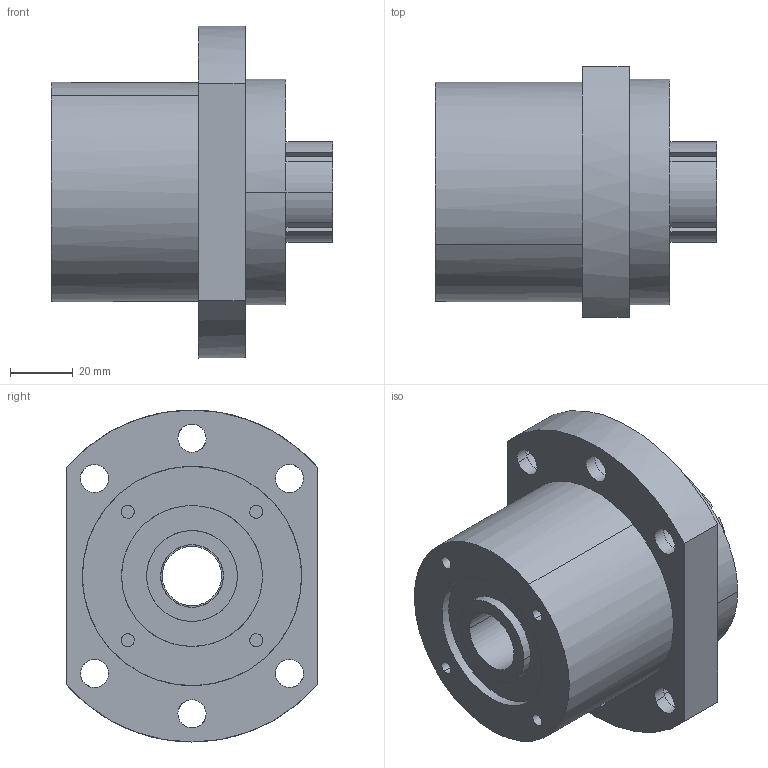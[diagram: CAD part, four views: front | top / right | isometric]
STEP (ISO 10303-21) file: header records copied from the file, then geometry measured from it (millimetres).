
FILE_DESCRIPTION(('CATIA V5 STEP Exchange'),'2;1');
FILE_NAME('D:\서포트 완성도면\WBK\WBK20DFD.stp','2014-03-26T10:24:34+00:00',('none'),('none'),'CATIA Version 5 Release 18 GA (IN-10)','CATIA V5 STEP AP203','none');
FILE_SCHEMA(('CONFIG_CONTROL_DESIGN'));
Length unit declared in the file: millimetre
Products named in the file (1): WBK20DFD
Assembly tree (4 placements, depth 2):
  WBK20DFD
    #56
    #3764  x2
    #4040
Bounding box: 90 x 80 x 106 mm (x, y, z)
Volume: 313076.9 mm3; surface area: 51956.7 mm2
Topology: 4 solids, 4 shells, 114 faces, 258 edges, 172 vertices
Faces by surface type: cylinder 72, plane 42
Entity records: 4819 total; most frequent: CARTESIAN_POINT 2489, ORIENTED_EDGE 492, DIRECTION 344, EDGE_CURVE 246, VERTEX_POINT 164, EDGE_LOOP 146, AXIS2_PLACEMENT_3D 133, VECTOR 110
